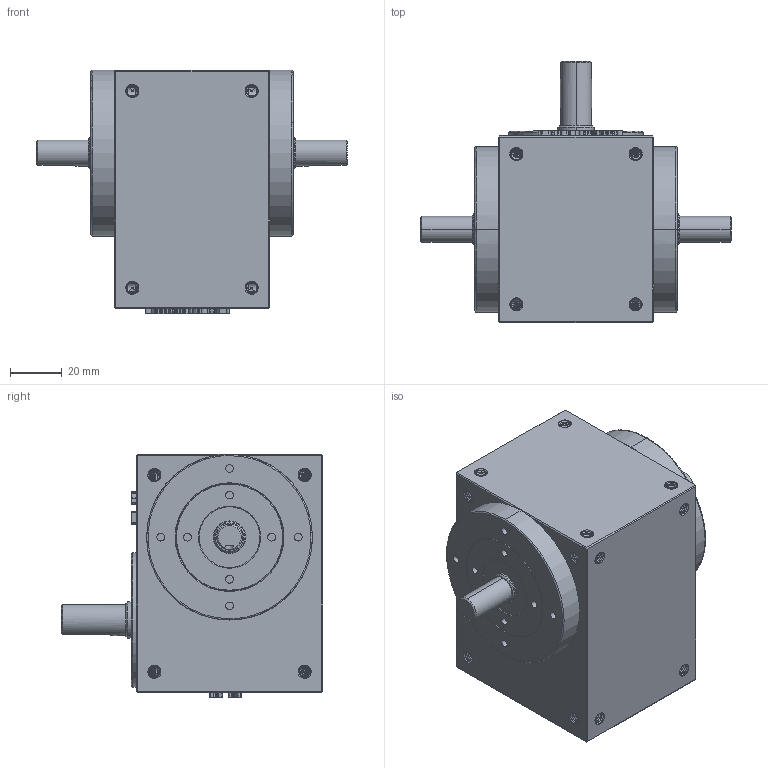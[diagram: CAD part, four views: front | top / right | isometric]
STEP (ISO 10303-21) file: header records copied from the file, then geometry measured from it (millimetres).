
FILE_DESCRIPTION (( 'STEP AP214' ), '1' );
FILE_NAME ('ER-RU32DS英锐凸轮分割器3D标准图纸(电话15062628977)A.STEP', '2019-07-16T03:11:39', ( '微软用户' ), ( '微软中国' ), 'SwSTEP 2.0', 'SolidWorks 2017', '' );
FILE_SCHEMA (( 'AUTOMOTIVE_DESIGN' ));
Length unit declared in the file: millimetre
Products named in the file (1): ER-RU32DS英锐凸轮分割器3D标准图纸(电话15062628977)A
Bounding box: 120 x 101 x 94 mm (x, y, z)
Volume: 461920.6 mm3; surface area: 45485.4 mm2
Topology: 1 solids, 1 shells, 1546 faces, 4107 edges, 2667 vertices
Faces by surface type: cylinder 512, bspline 464, plane 385, cone 185
Entity records: 141676 total; most frequent: CARTESIAN_POINT 109171, ORIENTED_EDGE 8182, DIRECTION 4330, EDGE_CURVE 4091, VERTEX_POINT 2667, EDGE_LOOP 1700, FACE_OUTER_BOUND 1546, ADVANCED_FACE 1546
